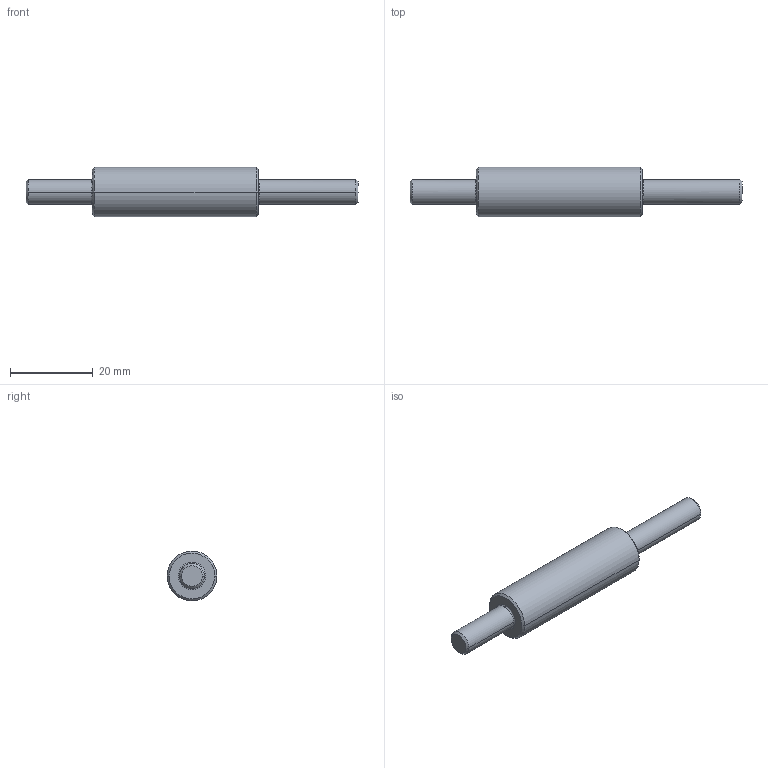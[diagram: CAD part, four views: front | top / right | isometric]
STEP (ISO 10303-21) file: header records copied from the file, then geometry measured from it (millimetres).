
FILE_DESCRIPTION(/* description */ (''),/* implementation_level */ '2;1');
FILE_NAME(/* name */ '6.y-drive#6.7#SFAJ12-40-F16-P6-T24',/* time_stamp */ '2014-12-01T20:15:51+01:00',/* author */ (''),/* organization */ (''),/* preprocessor_version */ 'ST-DEVELOPER v14',/* originating_system */ '',/* authorisation */ '');
FILE_SCHEMA (('AUTOMOTIVE_DESIGN'));
Length unit declared in the file: millimetre
Products named in the file (1): Document
Bounding box: 80 x 12 x 11.98 mm (x, y, z)
Volume: 5648.8 mm3; surface area: 2450.4 mm2
Topology: 1 solids, 1 shells, 22 faces, 46 edges, 28 vertices
Faces by surface type: bspline 18, plane 4
Entity records: 1604 total; most frequent: CARTESIAN_POINT 998, B_SPLINE_CURVE_WITH_KNOTS 94, ORIENTED_EDGE 92, PCURVE 92, DEFINITIONAL_REPRESENTATION 92, SURFACE_CURVE 46, EDGE_CURVE 46, VERTEX_POINT 28
